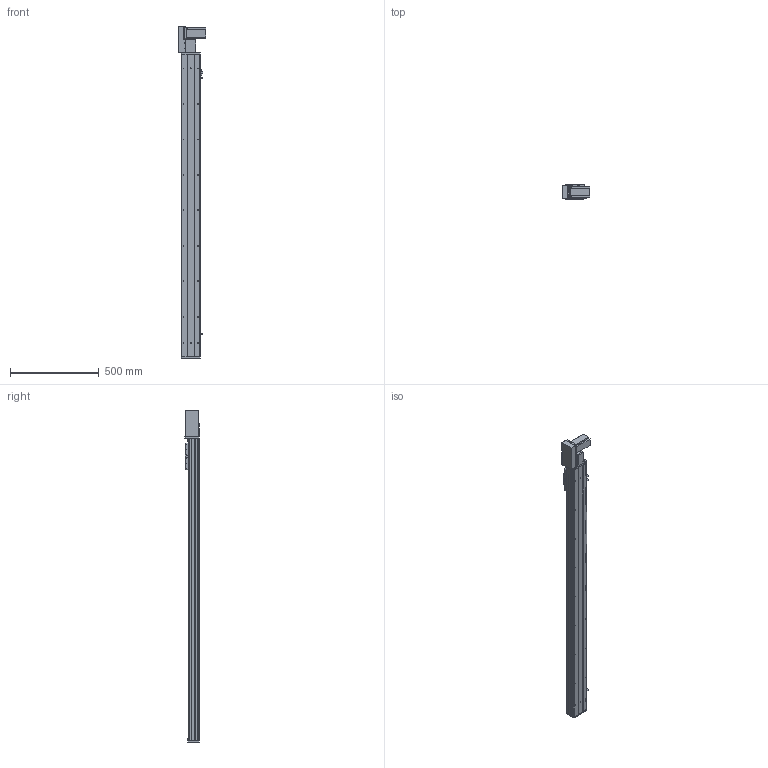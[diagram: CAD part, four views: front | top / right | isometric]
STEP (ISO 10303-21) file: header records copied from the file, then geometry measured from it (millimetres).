
FILE_DESCRIPTION (( 'STEP AP203' ), '1' );
FILE_NAME ('Y10CB-D90-S1450-BL-P400W.STEP', '2020-02-15T08:06:25', ( '微软用户' ), ( '微软中国' ), 'SwSTEP 2.0', 'SolidWorks 2017', '' );
FILE_SCHEMA (( 'CONFIG_CONTROL_DESIGN' ));
Length unit declared in the file: millimetre
Products named in the file (18): 10CB9-掛极; san松下电机400不带刹车----; 10CB-耜裔; 0B-源倛裔啣; Y135C-陔俋离換覜結え-; 0B-埴倛裔啣; 0CB-雄赽釱---; Y100-135俋离換覜ん--; Y俋欶BR----; 0Cb-俋欶---; Y10CB-D90-S1450-BL-P400W; 10CB-詩湍-; Y10B-々湍喘謫眊楊擘啣--; Y10CB- 掛极耜裔啣-毀---; Y10B--々湍喘謫眊--666; Y10B-耜蚾蟀諉啣----; Y10C---詩湍揤啣; 0B-萇儂楊擘啣
Assembly tree (21 placements, depth 2):
  Y10CB-D90-S1450-BL-P400W
    0CB-雄赽釱---
    0Cb-俋欶---
    Y10B-々湍喘謫眊楊擘啣--
    Y10B--々湍喘謫眊--666
    Y10B-耜蚾蟀諉啣----
    0B-萇儂楊擘啣
    san松下电机400不带刹车----
    0B-源倛裔啣
    0B-埴倛裔啣
    Y俋欶BR----
    10CB-詩湍-
    Y10CB- 掛极耜裔啣-毀---  x2
    Y10C---詩湍揤啣  x2
    10CB9-掛极
    10CB-耜裔
    Y135C-陔俋离換覜結え-
    Y100-135俋离換覜ん--  x3
Bounding box: 157.5 x 80.5 x 1872.5 mm (x, y, z)
Volume: 3922058 mm3; surface area: 1808782.4 mm2
Topology: 21 solids, 21 shells, 1014 faces, 2723 edges, 1778 vertices
Faces by surface type: cylinder 507, plane 483, cone 24
Entity records: 31904 total; most frequent: CARTESIAN_POINT 5765, DIRECTION 5130, ORIENTED_EDGE 4916, EDGE_CURVE 2458, AXIS2_PLACEMENT_3D 1833, VERTEX_POINT 1604, VECTOR 1464, LINE 1464
